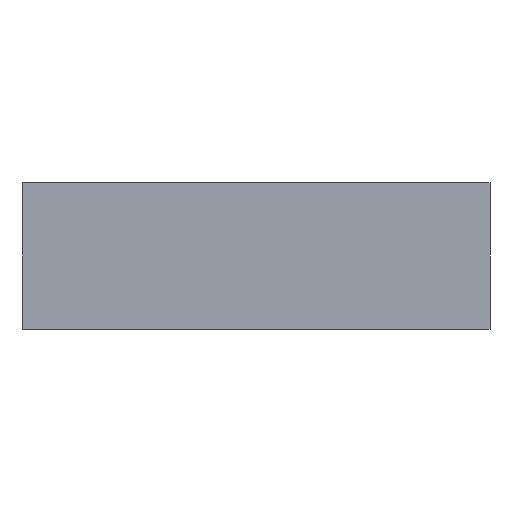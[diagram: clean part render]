
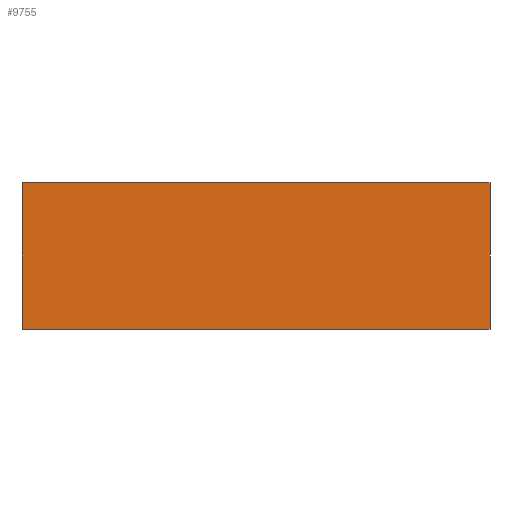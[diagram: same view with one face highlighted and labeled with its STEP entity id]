
A CAD part, left-side view. The second image highlights one B-rep face of the part: STEP entity #9755.
In plain terms, the highlighted planar face has unit normal (-1, 0, 0).
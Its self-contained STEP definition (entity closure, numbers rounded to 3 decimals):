
#44 = PLANE('',#45);
#45 = AXIS2_PLACEMENT_3D('',#46,#47,#48);
#46 = CARTESIAN_POINT('',(49.818,48.541,16.));
#47 = DIRECTION('',(0.,0.,1.));
#48 = DIRECTION('',(1.,0.,-0.));
#100 = PLANE('',#101);
#101 = AXIS2_PLACEMENT_3D('',#102,#103,#104);
#102 = CARTESIAN_POINT('',(49.818,2.459,0.));
#103 = DIRECTION('',(-0.,-0.,-1.));
#104 = DIRECTION('',(-1.,0.,0.));
#9755 = ADVANCED_FACE('',(#9756),#9770,.T.);
#9756 = FACE_BOUND('',#9757,.T.);
#9757 = EDGE_LOOP('',(#9758,#9793,#9816,#9844));
#9758 = ORIENTED_EDGE('',*,*,#9759,.T.);
#9759 = EDGE_CURVE('',#9760,#9762,#9764,.T.);
#9760 = VERTEX_POINT('',#9761);
#9761 = CARTESIAN_POINT('',(0.,51.,16.));
#9762 = VERTEX_POINT('',#9763);
#9763 = CARTESIAN_POINT('',(0.,51.,0.));
#9764 = SURFACE_CURVE('',#9765,(#9769,#9781),.PCURVE_S1.);
#9765 = LINE('',#9766,#9767);
#9766 = CARTESIAN_POINT('',(0.,51.,16.));
#9767 = VECTOR('',#9768,1.);
#9768 = DIRECTION('',(0.,0.,-1.));
#9769 = PCURVE('',#9770,#9775);
#9770 = PLANE('',#9771);
#9771 = AXIS2_PLACEMENT_3D('',#9772,#9773,#9774);
#9772 = CARTESIAN_POINT('',(0.,28.887,4.613));
#9773 = DIRECTION('',(-1.,-0.,-0.));
#9774 = DIRECTION('',(0.,0.,-1.));
#9775 = DEFINITIONAL_REPRESENTATION('',(#9776),#9780);
#9776 = LINE('',#9777,#9778);
#9777 = CARTESIAN_POINT('',(-11.387,-22.113));
#9778 = VECTOR('',#9779,1.);
#9779 = DIRECTION('',(1.,0.));
#9780 = ( GEOMETRIC_REPRESENTATION_CONTEXT(2) 
PARAMETRIC_REPRESENTATION_CONTEXT() REPRESENTATION_CONTEXT('2D SPACE',''
  ) );
#9781 = PCURVE('',#9782,#9787);
#9782 = PLANE('',#9783);
#9783 = AXIS2_PLACEMENT_3D('',#9784,#9785,#9786);
#9784 = CARTESIAN_POINT('',(28.887,51.,11.387));
#9785 = DIRECTION('',(0.,1.,0.));
#9786 = DIRECTION('',(0.,-0.,1.));
#9787 = DEFINITIONAL_REPRESENTATION('',(#9788),#9792);
#9788 = LINE('',#9789,#9790);
#9789 = CARTESIAN_POINT('',(4.613,-28.887));
#9790 = VECTOR('',#9791,1.);
#9791 = DIRECTION('',(-1.,0.));
#9792 = ( GEOMETRIC_REPRESENTATION_CONTEXT(2) 
PARAMETRIC_REPRESENTATION_CONTEXT() REPRESENTATION_CONTEXT('2D SPACE',''
  ) );
#9793 = ORIENTED_EDGE('',*,*,#9794,.F.);
#9794 = EDGE_CURVE('',#9795,#9762,#9797,.T.);
#9795 = VERTEX_POINT('',#9796);
#9796 = CARTESIAN_POINT('',(0.,0.,0.));
#9797 = SURFACE_CURVE('',#9798,(#9802,#9809),.PCURVE_S1.);
#9798 = LINE('',#9799,#9800);
#9799 = CARTESIAN_POINT('',(0.,0.,0.));
#9800 = VECTOR('',#9801,1.);
#9801 = DIRECTION('',(0.,1.,0.));
#9802 = PCURVE('',#9770,#9803);
#9803 = DEFINITIONAL_REPRESENTATION('',(#9804),#9808);
#9804 = LINE('',#9805,#9806);
#9805 = CARTESIAN_POINT('',(4.613,28.887));
#9806 = VECTOR('',#9807,1.);
#9807 = DIRECTION('',(0.,-1.));
#9808 = ( GEOMETRIC_REPRESENTATION_CONTEXT(2) 
PARAMETRIC_REPRESENTATION_CONTEXT() REPRESENTATION_CONTEXT('2D SPACE',''
  ) );
#9809 = PCURVE('',#100,#9810);
#9810 = DEFINITIONAL_REPRESENTATION('',(#9811),#9815);
#9811 = LINE('',#9812,#9813);
#9812 = CARTESIAN_POINT('',(49.818,-2.459));
#9813 = VECTOR('',#9814,1.);
#9814 = DIRECTION('',(0.,1.));
#9815 = ( GEOMETRIC_REPRESENTATION_CONTEXT(2) 
PARAMETRIC_REPRESENTATION_CONTEXT() REPRESENTATION_CONTEXT('2D SPACE',''
  ) );
#9816 = ORIENTED_EDGE('',*,*,#9817,.T.);
#9817 = EDGE_CURVE('',#9795,#9818,#9820,.T.);
#9818 = VERTEX_POINT('',#9819);
#9819 = CARTESIAN_POINT('',(0.,0.,16.));
#9820 = SURFACE_CURVE('',#9821,(#9825,#9832),.PCURVE_S1.);
#9821 = LINE('',#9822,#9823);
#9822 = CARTESIAN_POINT('',(0.,0.,0.));
#9823 = VECTOR('',#9824,1.);
#9824 = DIRECTION('',(0.,0.,1.));
#9825 = PCURVE('',#9770,#9826);
#9826 = DEFINITIONAL_REPRESENTATION('',(#9827),#9831);
#9827 = LINE('',#9828,#9829);
#9828 = CARTESIAN_POINT('',(4.613,28.887));
#9829 = VECTOR('',#9830,1.);
#9830 = DIRECTION('',(-1.,0.));
#9831 = ( GEOMETRIC_REPRESENTATION_CONTEXT(2) 
PARAMETRIC_REPRESENTATION_CONTEXT() REPRESENTATION_CONTEXT('2D SPACE',''
  ) );
#9832 = PCURVE('',#9833,#9838);
#9833 = PLANE('',#9834);
#9834 = AXIS2_PLACEMENT_3D('',#9835,#9836,#9837);
#9835 = CARTESIAN_POINT('',(22.113,0.,11.387));
#9836 = DIRECTION('',(-0.,-1.,-0.));
#9837 = DIRECTION('',(0.,0.,-1.));
#9838 = DEFINITIONAL_REPRESENTATION('',(#9839),#9843);
#9839 = LINE('',#9840,#9841);
#9840 = CARTESIAN_POINT('',(11.387,-22.113));
#9841 = VECTOR('',#9842,1.);
#9842 = DIRECTION('',(-1.,0.));
#9843 = ( GEOMETRIC_REPRESENTATION_CONTEXT(2) 
PARAMETRIC_REPRESENTATION_CONTEXT() REPRESENTATION_CONTEXT('2D SPACE',''
  ) );
#9844 = ORIENTED_EDGE('',*,*,#9845,.F.);
#9845 = EDGE_CURVE('',#9760,#9818,#9846,.T.);
#9846 = SURFACE_CURVE('',#9847,(#9851,#9858),.PCURVE_S1.);
#9847 = LINE('',#9848,#9849);
#9848 = CARTESIAN_POINT('',(0.,51.,16.));
#9849 = VECTOR('',#9850,1.);
#9850 = DIRECTION('',(0.,-1.,0.));
#9851 = PCURVE('',#9770,#9852);
#9852 = DEFINITIONAL_REPRESENTATION('',(#9853),#9857);
#9853 = LINE('',#9854,#9855);
#9854 = CARTESIAN_POINT('',(-11.387,-22.113));
#9855 = VECTOR('',#9856,1.);
#9856 = DIRECTION('',(0.,1.));
#9857 = ( GEOMETRIC_REPRESENTATION_CONTEXT(2) 
PARAMETRIC_REPRESENTATION_CONTEXT() REPRESENTATION_CONTEXT('2D SPACE',''
  ) );
#9858 = PCURVE('',#44,#9859);
#9859 = DEFINITIONAL_REPRESENTATION('',(#9860),#9864);
#9860 = LINE('',#9861,#9862);
#9861 = CARTESIAN_POINT('',(-49.818,2.459));
#9862 = VECTOR('',#9863,1.);
#9863 = DIRECTION('',(0.,-1.));
#9864 = ( GEOMETRIC_REPRESENTATION_CONTEXT(2) 
PARAMETRIC_REPRESENTATION_CONTEXT() REPRESENTATION_CONTEXT('2D SPACE',''
  ) );
